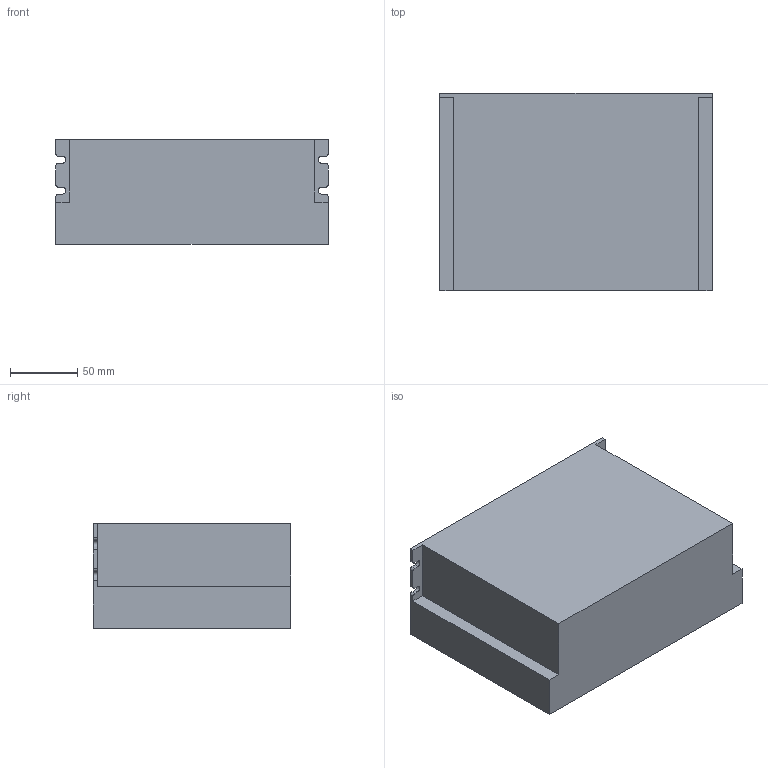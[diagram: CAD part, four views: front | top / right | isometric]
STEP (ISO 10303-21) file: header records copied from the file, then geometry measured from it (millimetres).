
FILE_DESCRIPTION (( 'STEP AP214' ), '1' );
FILE_NAME ('R130.STEP', '2021-10-20T06:53:44', ( '微软用户' ), ( '微软中国' ), 'SwSTEP 2.0', 'SolidWorks 2020', '' );
FILE_SCHEMA (( 'AUTOMOTIVE_DESIGN' ));
Length unit declared in the file: millimetre
Products named in the file (1): R130
Bounding box: 203 x 147 x 78 mm (x, y, z)
Volume: 2193239.6 mm3; surface area: 114123.4 mm2
Topology: 1 solids, 1 shells, 36 faces, 102 edges, 68 vertices
Faces by surface type: plane 24, cylinder 12
Entity records: 1204 total; most frequent: CARTESIAN_POINT 207, ORIENTED_EDGE 204, DIRECTION 200, EDGE_CURVE 102, LINE 78, VECTOR 78, VERTEX_POINT 68, AXIS2_PLACEMENT_3D 61
